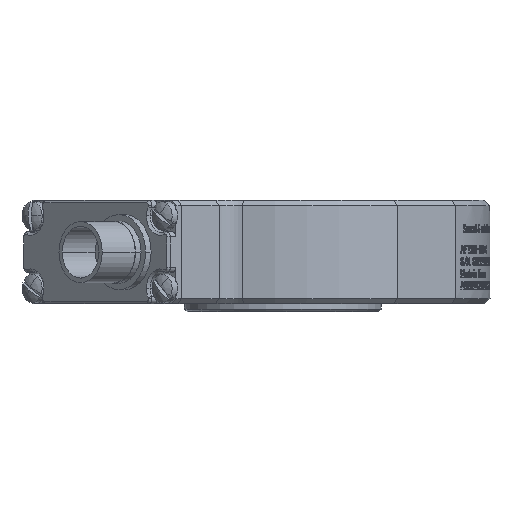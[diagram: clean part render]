
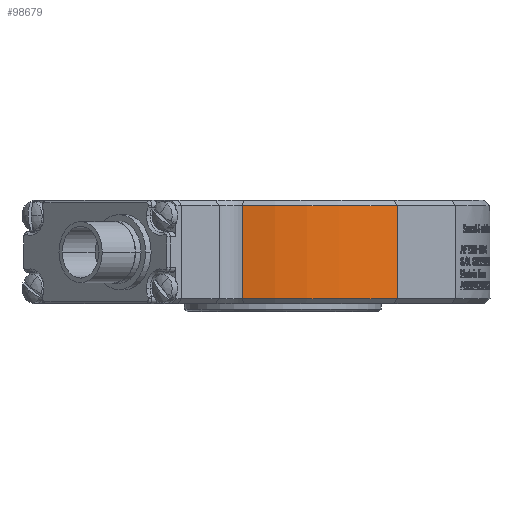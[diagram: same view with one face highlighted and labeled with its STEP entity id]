
A CAD part, front view. The second image highlights one B-rep face of the part: STEP entity #98679.
In plain terms, the highlighted cylindrical face has radius 40 mm (diameter 80 mm), a partial arc.
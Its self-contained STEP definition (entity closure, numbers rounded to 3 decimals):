
#143 = ORIENTED_EDGE ( 'NONE', *, *, #19718, .F. ) ;
#436 = CARTESIAN_POINT ( 'NONE',  ( 0., 0., 11.25 ) ) ;
#8688 = EDGE_LOOP ( 'NONE', ( #143, #138820, #154961, #10883 ) ) ;
#10883 = ORIENTED_EDGE ( 'NONE', *, *, #79984, .T. ) ;
#11669 = VERTEX_POINT ( 'NONE', #87342 ) ;
#12220 = DIRECTION ( 'NONE',  ( 1., 0., 0. ) ) ;
#16980 = DIRECTION ( 'NONE',  ( 0., 0., -1. ) ) ;
#19718 = EDGE_CURVE ( 'NONE', #148659, #11669, #135739, .T. ) ;
#28436 = CARTESIAN_POINT ( 'NONE',  ( 22.09, -33.347, 28.17 ) ) ;
#28823 = CYLINDRICAL_SURFACE ( 'NONE', #92406, 40. ) ;
#35119 = DIRECTION ( 'NONE',  ( 0., 0., -1. ) ) ;
#37582 = CARTESIAN_POINT ( 'NONE',  ( -7.804, -39.231, -6.75 ) ) ;
#39968 = DIRECTION ( 'NONE',  ( -1., 0., 0. ) ) ;
#46955 = LINE ( 'NONE', #95111, #101281 ) ;
#49290 = DIRECTION ( 'NONE',  ( 0., 0., -1. ) ) ;
#52044 = CARTESIAN_POINT ( 'NONE',  ( 22.09, -33.347, 11.25 ) ) ;
#53284 = CARTESIAN_POINT ( 'NONE',  ( 0., 0., 3. ) ) ;
#64456 = CARTESIAN_POINT ( 'NONE',  ( 0., 0., -6.75 ) ) ;
#64734 = DIRECTION ( 'NONE',  ( 0., 0., -1. ) ) ;
#73080 = CIRCLE ( 'NONE', #146157, 40. ) ;
#76346 = VECTOR ( 'NONE', #64734, 1000. ) ;
#79984 = EDGE_CURVE ( 'NONE', #88280, #11669, #105635, .T. ) ;
#87342 = CARTESIAN_POINT ( 'NONE',  ( 22.09, -33.347, -6.75 ) ) ;
#88280 = VERTEX_POINT ( 'NONE', #37582 ) ;
#92406 = AXIS2_PLACEMENT_3D ( 'NONE', #53284, #16980, #125853 ) ;
#95111 = CARTESIAN_POINT ( 'NONE',  ( -7.804, -39.231, 3. ) ) ;
#98679 = ADVANCED_FACE ( 'NONE', ( #136932 ), #28823, .T. ) ;
#101281 = VECTOR ( 'NONE', #35119, 1000. ) ;
#103188 = AXIS2_PLACEMENT_3D ( 'NONE', #64456, #149640, #39968 ) ;
#105635 = CIRCLE ( 'NONE', #103188, 40. ) ;
#115626 = EDGE_CURVE ( 'NONE', #148659, #155803, #73080, .T. ) ;
#119067 = CARTESIAN_POINT ( 'NONE',  ( -7.804, -39.231, 11.25 ) ) ;
#125853 = DIRECTION ( 'NONE',  ( -1., 0., 0. ) ) ;
#126835 = EDGE_CURVE ( 'NONE', #155803, #88280, #46955, .T. ) ;
#135739 = LINE ( 'NONE', #28436, #76346 ) ;
#136932 = FACE_OUTER_BOUND ( 'NONE', #8688, .T. ) ;
#138820 = ORIENTED_EDGE ( 'NONE', *, *, #115626, .T. ) ;
#146157 = AXIS2_PLACEMENT_3D ( 'NONE', #436, #49290, #12220 ) ;
#148659 = VERTEX_POINT ( 'NONE', #52044 ) ;
#149640 = DIRECTION ( 'NONE',  ( 0., 0., 1. ) ) ;
#154961 = ORIENTED_EDGE ( 'NONE', *, *, #126835, .T. ) ;
#155803 = VERTEX_POINT ( 'NONE', #119067 ) ;
